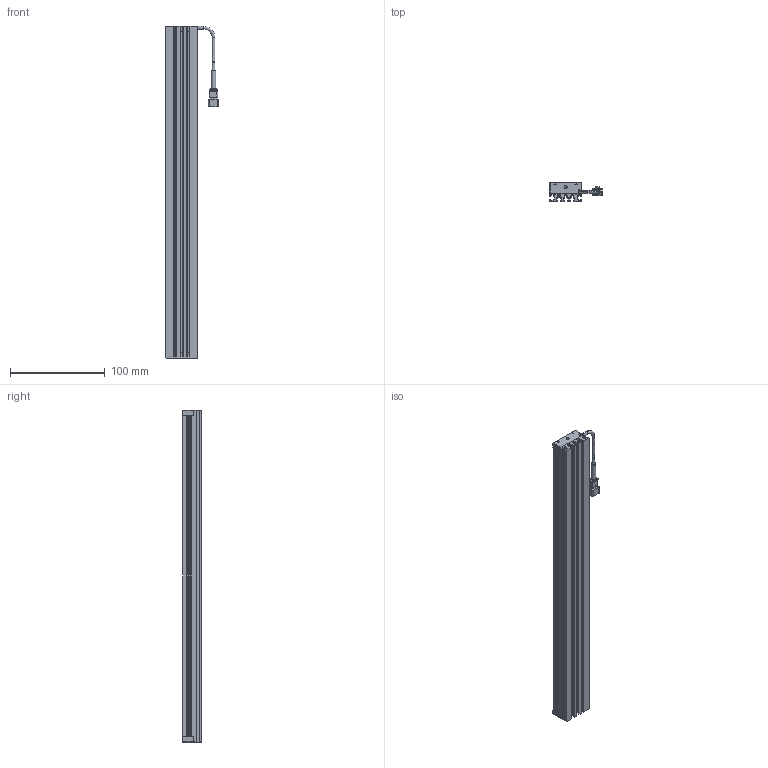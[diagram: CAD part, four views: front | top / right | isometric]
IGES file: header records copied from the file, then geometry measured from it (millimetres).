
Start section: SolidWorks IGES file using NURBS representation for surfaces
Global section: file name: U:\PRODUCTS\80_その他テーマ\RD32114_LDL2-GR2特注の標準化\02_図面\提出用\3D\42_LDL2-338X30GR2\LDL2-338X30GR2.IGS; native system: SolidWorks 2022; preprocessor: SolidWorks 2022; author: takaomc; date: 241001.113702; units: millimetre
Bounding box: 55.75 x 20 x 350 mm (x, y, z)
Surface area: 104871.7 mm2 (no closed solid volume)
Topology: 0 solids, 0 shells, 481 faces, 4582 edges, 4566 vertices
Faces by surface type: bspline 481
